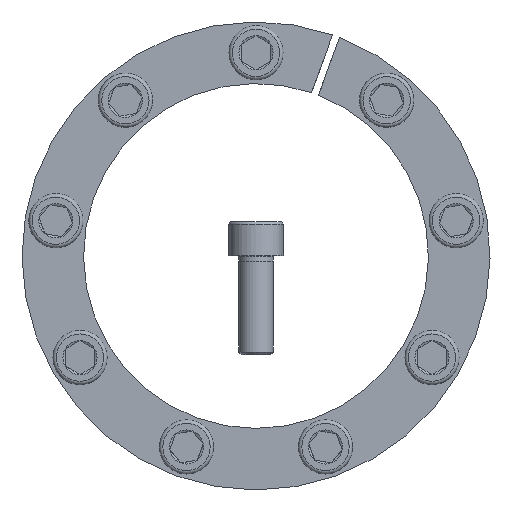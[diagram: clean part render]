
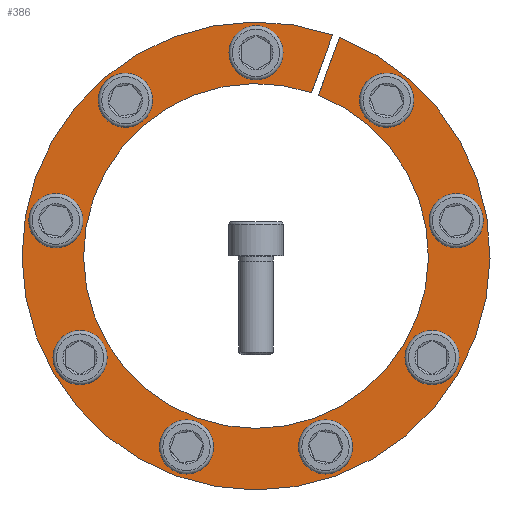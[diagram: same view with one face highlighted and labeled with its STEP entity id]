
A CAD part, front view. The second image highlights one B-rep face of the part: STEP entity #386.
In plain terms, the highlighted planar face has unit normal (0, -1, 0).
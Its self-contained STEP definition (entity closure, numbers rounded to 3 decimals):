
#386 = ADVANCED_FACE( '', ( #591, #592, #593, #594, #595, #596, #597, #598, #599, #600 ), #601, .F. );
#591 = FACE_BOUND( '', #765, .T. );
#592 = FACE_BOUND( '', #766, .T. );
#593 = FACE_BOUND( '', #767, .T. );
#594 = FACE_BOUND( '', #768, .T. );
#595 = FACE_OUTER_BOUND( '', #769, .T. );
#596 = FACE_BOUND( '', #770, .T. );
#597 = FACE_BOUND( '', #771, .T. );
#598 = FACE_BOUND( '', #772, .T. );
#599 = FACE_BOUND( '', #773, .T. );
#600 = FACE_BOUND( '', #774, .T. );
#601 = PLANE( '', #775 );
#765 = EDGE_LOOP( '', ( #988 ) );
#766 = EDGE_LOOP( '', ( #989 ) );
#767 = EDGE_LOOP( '', ( #990 ) );
#768 = EDGE_LOOP( '', ( #991 ) );
#769 = EDGE_LOOP( '', ( #992, #993, #994, #995 ) );
#770 = EDGE_LOOP( '', ( #996 ) );
#771 = EDGE_LOOP( '', ( #997 ) );
#772 = EDGE_LOOP( '', ( #998 ) );
#773 = EDGE_LOOP( '', ( #999 ) );
#774 = EDGE_LOOP( '', ( #1000 ) );
#775 = AXIS2_PLACEMENT_3D( '', #1001, #1002, #1003 );
#988 = ORIENTED_EDGE( '', *, *, #1348, .T. );
#989 = ORIENTED_EDGE( '', *, *, #1349, .T. );
#990 = ORIENTED_EDGE( '', *, *, #1350, .T. );
#991 = ORIENTED_EDGE( '', *, *, #1351, .T. );
#992 = ORIENTED_EDGE( '', *, *, #1346, .F. );
#993 = ORIENTED_EDGE( '', *, *, #1342, .F. );
#994 = ORIENTED_EDGE( '', *, *, #1352, .T. );
#995 = ORIENTED_EDGE( '', *, *, #1353, .F. );
#996 = ORIENTED_EDGE( '', *, *, #1354, .T. );
#997 = ORIENTED_EDGE( '', *, *, #1355, .T. );
#998 = ORIENTED_EDGE( '', *, *, #1356, .T. );
#999 = ORIENTED_EDGE( '', *, *, #1357, .T. );
#1000 = ORIENTED_EDGE( '', *, *, #1358, .T. );
#1001 = CARTESIAN_POINT( '', ( 0., 0., 95. ) );
#1002 = DIRECTION( '', ( 0., 1., 0. ) );
#1003 = DIRECTION( '', ( 0., 0., 1. ) );
#1342 = EDGE_CURVE( '', #1481, #1483, #1484, .T. );
#1346 = EDGE_CURVE( '', #1483, #1490, #1491, .T. );
#1348 = EDGE_CURVE( '', #1493, #1493, #1494, .T. );
#1349 = EDGE_CURVE( '', #1495, #1495, #1496, .T. );
#1350 = EDGE_CURVE( '', #1497, #1497, #1498, .T. );
#1351 = EDGE_CURVE( '', #1499, #1499, #1500, .T. );
#1352 = EDGE_CURVE( '', #1481, #1501, #1502, .T. );
#1353 = EDGE_CURVE( '', #1490, #1501, #1503, .T. );
#1354 = EDGE_CURVE( '', #1504, #1504, #1505, .T. );
#1355 = EDGE_CURVE( '', #1506, #1506, #1507, .T. );
#1356 = EDGE_CURVE( '', #1508, #1508, #1509, .T. );
#1357 = EDGE_CURVE( '', #1510, #1510, #1511, .T. );
#1358 = EDGE_CURVE( '', #1512, #1512, #1513, .T. );
#1481 = VERTEX_POINT( '', #1617 );
#1483 = VERTEX_POINT( '', #1620 );
#1484 = LINE( '', #1621, #1622 );
#1490 = VERTEX_POINT( '', #1630 );
#1491 = CIRCLE( '', #1631, 70. );
#1493 = VERTEX_POINT( '', #1634 );
#1494 = CIRCLE( '', #1635, 7. );
#1495 = VERTEX_POINT( '', #1636 );
#1496 = CIRCLE( '', #1637, 7. );
#1497 = VERTEX_POINT( '', #1638 );
#1498 = CIRCLE( '', #1639, 7. );
#1499 = VERTEX_POINT( '', #1640 );
#1500 = CIRCLE( '', #1641, 7. );
#1501 = VERTEX_POINT( '', #1642 );
#1502 = CIRCLE( '', #1643, 95. );
#1503 = LINE( '', #1644, #1645 );
#1504 = VERTEX_POINT( '', #1646 );
#1505 = CIRCLE( '', #1647, 7. );
#1506 = VERTEX_POINT( '', #1648 );
#1507 = CIRCLE( '', #1649, 7. );
#1508 = VERTEX_POINT( '', #1650 );
#1509 = CIRCLE( '', #1651, 7. );
#1510 = VERTEX_POINT( '', #1652 );
#1511 = CIRCLE( '', #1653, 7. );
#1512 = VERTEX_POINT( '', #1654 );
#1513 = CIRCLE( '', #1655, 7. );
#1617 = CARTESIAN_POINT( '', ( 31.078, 0., 89.773 ) );
#1620 = CARTESIAN_POINT( '', ( 22.526, 0., 66.276 ) );
#1621 = CARTESIAN_POINT( '', ( 31.082, 0., 89.784 ) );
#1622 = VECTOR( '', #1748, 1000. );
#1630 = CARTESIAN_POINT( '', ( 25.345, 0., 65.25 ) );
#1631 = AXIS2_PLACEMENT_3D( '', #1754, #1755, #1756 );
#1634 = CARTESIAN_POINT( '', ( -80.031, 0., 21.22 ) );
#1635 = AXIS2_PLACEMENT_3D( '', #1758, #1759, #1760 );
#1636 = CARTESIAN_POINT( '', ( -34.795, 0., -75.131 ) );
#1637 = AXIS2_PLACEMENT_3D( '', #1761, #1762, #1763 );
#1638 = CARTESIAN_POINT( '', ( 67.947, 0., -47.312 ) );
#1639 = AXIS2_PLACEMENT_3D( '', #1764, #1765, #1766 );
#1640 = CARTESIAN_POINT( '', ( 58.392, 0., 58.699 ) );
#1641 = AXIS2_PLACEMENT_3D( '', #1767, #1768, #1769 );
#1642 = CARTESIAN_POINT( '', ( 33.897, 0., 88.747 ) );
#1643 = AXIS2_PLACEMENT_3D( '', #1770, #1771, #1772 );
#1644 = CARTESIAN_POINT( '', ( 25.345, 0., 65.25 ) );
#1645 = VECTOR( '', #1773, 1000. );
#1646 = CARTESIAN_POINT( '', ( 7., 0., 82.5 ) );
#1647 = AXIS2_PLACEMENT_3D( '', #1774, #1775, #1776 );
#1648 = CARTESIAN_POINT( '', ( 82.462, 0., 7.432 ) );
#1649 = AXIS2_PLACEMENT_3D( '', #1777, #1778, #1779 );
#1650 = CARTESIAN_POINT( '', ( 21.639, 0., -79.919 ) );
#1651 = AXIS2_PLACEMENT_3D( '', #1780, #1781, #1782 );
#1652 = CARTESIAN_POINT( '', ( -74.947, 0., -35.188 ) );
#1653 = AXIS2_PLACEMENT_3D( '', #1783, #1784, #1785 );
#1654 = CARTESIAN_POINT( '', ( -47.668, 0., 67.698 ) );
#1655 = AXIS2_PLACEMENT_3D( '', #1786, #1787, #1788 );
#1748 = DIRECTION( '', ( -0.342, 0., -0.94 ) );
#1754 = CARTESIAN_POINT( '', ( 0., 0., 0. ) );
#1755 = DIRECTION( '', ( 0., -1., 0. ) );
#1756 = DIRECTION( '', ( 0., 0., -1. ) );
#1758 = CARTESIAN_POINT( '', ( -81.247, 0., 14.326 ) );
#1759 = DIRECTION( '', ( 0., 1., 0. ) );
#1760 = DIRECTION( '', ( 0.174, 0., 0.985 ) );
#1761 = CARTESIAN_POINT( '', ( -28.217, 0., -77.525 ) );
#1762 = DIRECTION( '', ( 0., 1., 0. ) );
#1763 = DIRECTION( '', ( -0.94, 0., 0.342 ) );
#1764 = CARTESIAN_POINT( '', ( 71.447, 0., -41.25 ) );
#1765 = DIRECTION( '', ( 0., 1., 0. ) );
#1766 = DIRECTION( '', ( -0.5, 0., -0.866 ) );
#1767 = CARTESIAN_POINT( '', ( 53.03, 0., 63.199 ) );
#1768 = DIRECTION( '', ( 0., 1., 0. ) );
#1769 = DIRECTION( '', ( 0.766, 0., -0.643 ) );
#1770 = CARTESIAN_POINT( '', ( 0., 0., 0. ) );
#1771 = DIRECTION( '', ( 0., -1., 0. ) );
#1772 = DIRECTION( '', ( 0., 0., -1. ) );
#1773 = DIRECTION( '', ( 0.342, 0., 0.94 ) );
#1774 = CARTESIAN_POINT( '', ( 0., 0., 82.5 ) );
#1775 = DIRECTION( '', ( 0., 1., 0. ) );
#1776 = DIRECTION( '', ( 1., 0., 0. ) );
#1777 = CARTESIAN_POINT( '', ( 81.247, 0., 14.326 ) );
#1778 = DIRECTION( '', ( 0., 1., 0. ) );
#1779 = DIRECTION( '', ( 0.174, 0., -0.985 ) );
#1780 = CARTESIAN_POINT( '', ( 28.217, 0., -77.525 ) );
#1781 = DIRECTION( '', ( 0., 1., 0. ) );
#1782 = DIRECTION( '', ( -0.94, 0., -0.342 ) );
#1783 = CARTESIAN_POINT( '', ( -71.447, 0., -41.25 ) );
#1784 = DIRECTION( '', ( 0., 1., 0. ) );
#1785 = DIRECTION( '', ( -0.5, 0., 0.866 ) );
#1786 = CARTESIAN_POINT( '', ( -53.03, 0., 63.199 ) );
#1787 = DIRECTION( '', ( 0., 1., 0. ) );
#1788 = DIRECTION( '', ( 0.766, 0., 0.643 ) );
